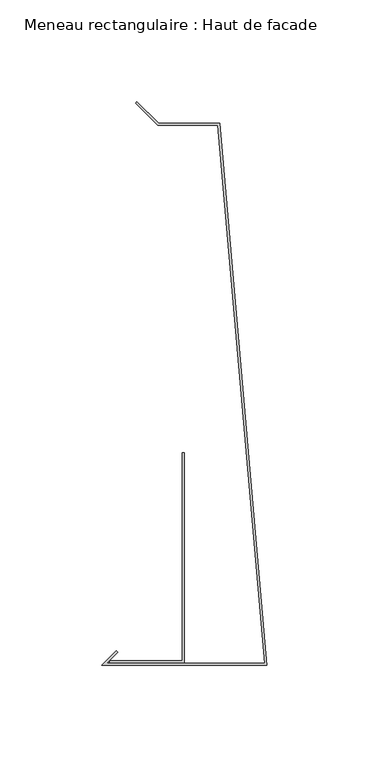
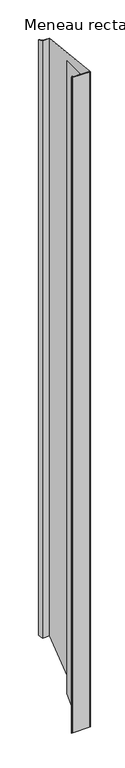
"""IFC4 building model written with IfcOpenShell, lengths in millimetres: member geometry, Meneau rectangulaire : Haut de facade."""

from ifc_helpers import new_model, si_unit, origin, place, context, project, spatial, faceted_brep, source, transform, mapped, element, save


def meneau_rectangulaire_haut_de_facade_bc7f2701(model_context):
    return source(origin(), model_context, "Body", "Brep", [
        faceted_brep([(-24.0647895, 160.703755, 0.0), (-1.0913085, -103.2, 0.0), (-78.5857864, -103.2, 0.0), (-73.2218254, -97.836039, 0.0), (-73.9289322, -97.1289322, 0.0), (-81.0, -104.2, 0.0), (0.0, -104.2, 0.0), (-23.1484584, 161.703755, 0.0), (-53.1484584, 161.703755, 0.0), (-63.7550601, 172.3103567, 0.0), (-64.4621669, 171.6032499, 0.0), (-53.5626719, 160.703755, 0.0), (-24.0647895, 160.703755, -2734.296245), (-1.0913085, -103.2, -2998.2), (-78.5857864, -103.2, -2998.2), (-73.2218254, -97.836039, -2992.836039), (-73.9289322, -97.1289322, -2992.1289322), (-81.0, -104.2, -2999.2), (0.0, -104.2, -2999.2), (-23.1484584, 161.703755, -2733.296245), (-53.1484584, 161.703755, -2733.296245), (-63.7550601, 172.3103567, -2722.6896433), (-64.4621669, 171.6032499, -2723.3967501), (-53.5626719, 160.703755, -2734.296245)], [[[0, 1, 2, 3, 4, 5, 6, 7, 8, 9, 10, 11]], [[1, 0, 12, 13]], [[2, 1, 13, 14]], [[3, 2, 14, 15]], [[4, 3, 15, 16]], [[5, 4, 16, 17]], [[6, 5, 17, 18]], [[7, 6, 18, 19]], [[8, 7, 19, 20]], [[9, 8, 20, 21]], [[10, 9, 21, 22]], [[11, 10, 22, 23]], [[0, 11, 23, 12]], [[12, 23, 22, 21, 20, 19, 18, 17, 16, 15, 14, 13]]]),
        faceted_brep([(-40.5477541, -102.9846816, 0.0), (-40.5477541, -0.0384227, 0.0), (-41.5477541, -0.0384227, 0.0), (-41.5477541, -101.9846816, 0.0), (-77.0752814, -101.9846816, 0.0), (-77.0752814, -102.9846816, 0.0), (-40.5477541, -102.9846816, -2997.9846816), (-40.5477541, -0.0384227, -2895.0384227), (-41.5477541, -0.0384227, -2895.0384227), (-41.5477541, -101.9846816, -2996.9846816), (-77.0752814, -101.9846816, -2996.9846816), (-77.0752814, -102.9846816, -2997.9846816)], [[[0, 1, 2, 3, 4, 5]], [[1, 0, 6, 7]], [[2, 1, 7, 8]], [[3, 2, 8, 9]], [[4, 3, 9, 10]], [[5, 4, 10, 11]], [[0, 5, 11, 6]], [[6, 11, 10, 9, 8, 7]]]),
    ])


if __name__ == "__main__":
    model = new_model("IFC4")
    model_context = context("Model", 3, world=origin())
    ifc_project = project(units=[si_unit("LENGTHUNIT", "METRE", prefix="MILLI")], contexts=[model_context])
    site = spatial("IfcSite", under=ifc_project)
    building = spatial("IfcBuilding", under=site)
    placement = place(None, origin())
    meneau_rectangulaire_haut_de_facade_shape = meneau_rectangulaire_haut_de_facade_bc7f2701(model_context)
    element("IfcMember", 1, ObjectType="Meneau rectangulaire : Haut de facade", at=placement, inside=building, context=model_context, shape_type="MappedRepresentation", body=[
        mapped(meneau_rectangulaire_haut_de_facade_shape, transform((0.0, 0.0, 0.0), x_axis=(1.0, 0.0, 0.0), y_axis=(0.0, 1.0, 0.0), z_axis=(0.0, 0.0, 1.0))),
    ])
    save(model, "model.ifc")
